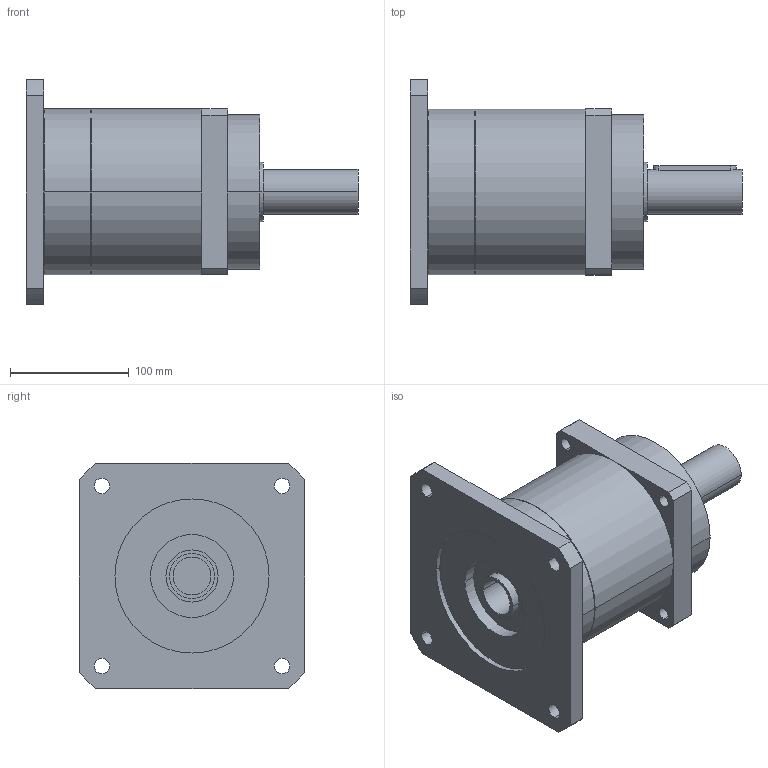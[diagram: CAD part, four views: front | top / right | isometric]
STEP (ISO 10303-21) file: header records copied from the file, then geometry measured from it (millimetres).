
FILE_DESCRIPTION(('CoCreate Modeling STEP Export'),'2;1');
FILE_NAME('GPR150_ig-3-4-5-7_38_B5_32_P13.stp','2014-08-19T16:43:03',(''),(''),'CoCreate Modeling STEP processor for AP214 (Solid Model)','CoCreate Modeling 16.00C 25-Feb-2009 (C) Parametric Technology GmbH','');
FILE_SCHEMA(('AUTOMOTIVE_DESIGN { 1 0 10303 214 1 1 1 1 }'));
Length unit declared in the file: millimetre
Products named in the file (2): GPR150_ig-3-4-5-7_38_B5_32_P13
Assembly tree (1 placements, depth 2):
  GPR150_ig-3-4-5-7_38_B5_32_P13
    GPR150_ig-3-4-5-7_38_B5_32_P13
Bounding box: 280 x 190 x 190 mm (x, y, z)
Volume: 3299581.2 mm3; surface area: 200126.8 mm2
Topology: 1 solids, 1 shells, 81 faces, 220 edges, 150 vertices
Faces by surface type: cylinder 48, plane 27, cone 6
Entity records: 2325 total; most frequent: ORIENTED_EDGE 436, CARTESIAN_POINT 431, DIRECTION 330, EDGE_CURVE 218, VERTEX_POINT 150, AXIS2_PLACEMENT_3D 121, EDGE_LOOP 108, VECTOR 88
